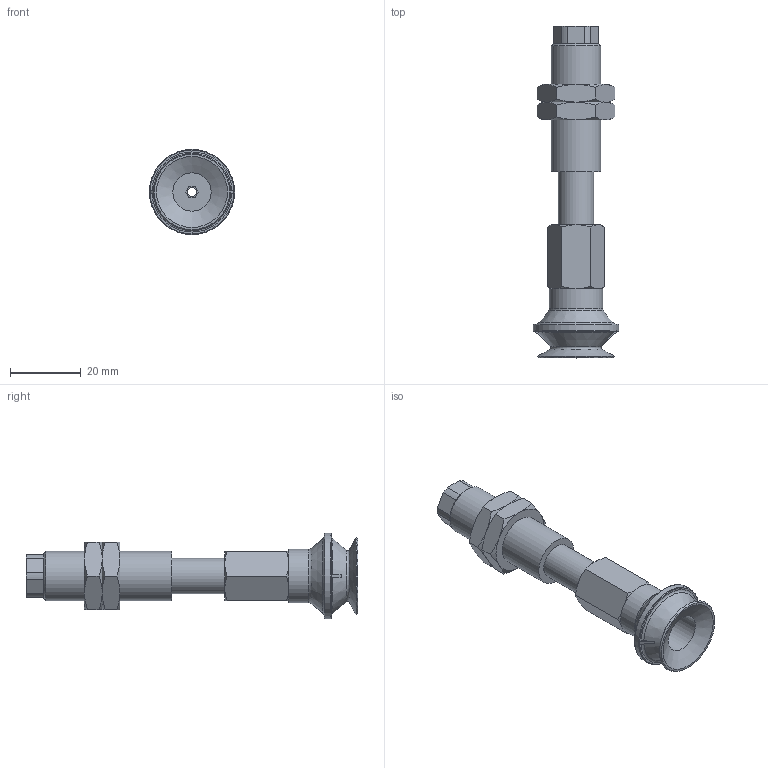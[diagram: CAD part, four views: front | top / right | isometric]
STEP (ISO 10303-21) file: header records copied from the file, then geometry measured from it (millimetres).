
FILE_DESCRIPTION(('STEP AP203'),'1');
FILE_NAME('.stp','2025-08-27T01:14:07',(' '),(' '),'Spatial InterOp 3D',' ',' ');
FILE_SCHEMA(('CONFIG_CONTROL_DESIGN'));
Length unit declared in the file: millimetre
Products named in the file (7): BNABPBTS-20-15-※; ADAPTER; NAPBTS-20-15--M; Adapter20-T-NAPB; Nut-20-S-PB; NAPBTS-20-15--F; BPBG-20-※
Assembly tree (7 placements, depth 2):
  BNABPBTS-20-15-※
    ADAPTER
    NAPBTS-20-15--M
    Adapter20-T-NAPB
    Nut-20-S-PB  x2
    NAPBTS-20-15--F
    BPBG-20-※
Bounding box: 24 x 93.5 x 24 mm (x, y, z)
Volume: 15057.1 mm3; surface area: 11509.7 mm2
Topology: 7 solids, 7 shells, 139 faces, 302 edges, 184 vertices
Faces by surface type: plane 57, cone 51, cylinder 22, torus 9
Full cylindrical faces by diameter (mm): 2.5 x1, 3 x2, 4.134 x2, 4.6 x1, 5 x1, 10 x2, 10.8 x1, 11 x1, 12.917 x2, 14 x1, 15 x1, 24 x1
Entity records: 3526 total; most frequent: CARTESIAN_POINT 818, DIRECTION 508, ORIENTED_EDGE 422, AXIS2_PLACEMENT_3D 221, EDGE_CURVE 211, EDGE_LOOP 168, VERTEX_POINT 147, FACE_OUTER_BOUND 138
